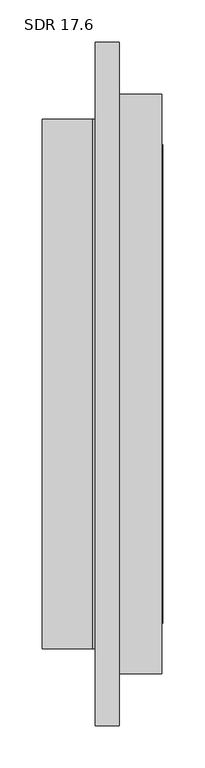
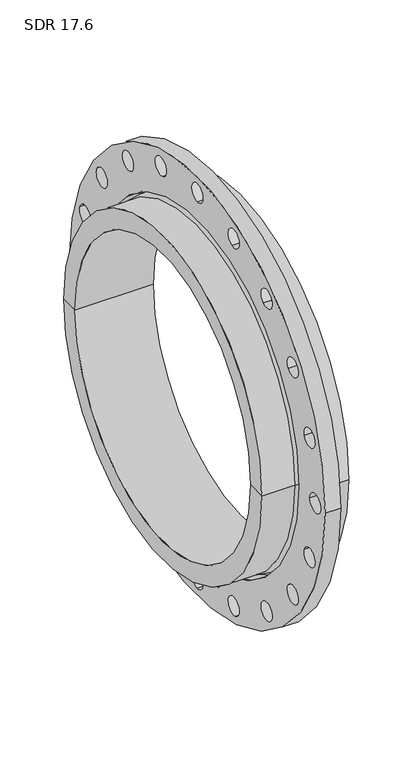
"""IFC4 building model written with IfcOpenShell, lengths in millimetres: valve geometry, Aquatherm - Flange Adapter Butt-Weld : SDR 17.6."""

from ifc_helpers import new_model, si_unit, point, frame, frame_2d, origin, origin_2d, place, context, project, spatial, polyline, circle_curve, trimmed, segment, composite_curve, outline, extrude, source, transform, mapped, element, save
from ifc_brep_helpers import plane_surface, cylinder_surface, revolved_surface, advanced_brep


def sdr_17_6_c38204c5(model_context):
    return source(origin(), model_context, "Body", "SolidModel", [
        extrude(outline(composite_curve([segment(trimmed(circle_curve(origin_2d(), 406.4), [point((-406.4, 0.0))], [point((406.4, 0.0))], False, "CARTESIAN"), True, "CONTINUOUS"), segment(trimmed(circle_curve(origin_2d(), 406.4), [point((406.4, 0.0))], [point((-406.4, 0.0))], False, "CARTESIAN"), True, "CONTINUOUS")], self_intersect=False), holes=[composite_curve([segment(trimmed(circle_curve(origin_2d(), 322.58), [point((-322.58, 0.0))], [point((322.58, 0.0))], True, "CARTESIAN"), True, "CONTINUOUS"), segment(trimmed(circle_curve(origin_2d(), 322.58), [point((322.58, 0.0))], [point((-322.58, 0.0))], True, "CARTESIAN"), True, "CONTINUOUS")], self_intersect=False), composite_curve([segment(trimmed(circle_curve(frame_2d((374.65, 0.0)), 17.526), [point((357.124, 0.0))], [point((392.176, 0.0))], True, "CARTESIAN"), True, "CONTINUOUS"), segment(trimmed(circle_curve(frame_2d((374.65, 0.0)), 17.526), [point((392.176, 0.0))], [point((357.124, 0.0))], True, "CARTESIAN"), True, "CONTINUOUS")], self_intersect=False), composite_curve([segment(trimmed(circle_curve(frame_2d((356.3133238, -115.7732169)), 17.526), [point((339.6451073, -110.3573851))], [point((372.9815403, -121.1890488))], True, "CARTESIAN"), True, "CONTINUOUS"), segment(trimmed(circle_curve(frame_2d((356.3133238, -115.7732169)), 17.526), [point((372.9815403, -121.1890488))], [point((339.6451073, -110.3573851))], True, "CARTESIAN"), True, "CONTINUOUS")], self_intersect=False), composite_curve([segment(trimmed(circle_curve(frame_2d((356.3133238, 115.7732169)), 17.526), [point((339.6451073, 110.3573851))], [point((372.9815403, 121.1890488))], True, "CARTESIAN"), True, "CONTINUOUS"), segment(trimmed(circle_curve(frame_2d((356.3133238, 115.7732169)), 17.526), [point((372.9815403, 121.1890488))], [point((339.6451073, 110.3573851))], True, "CARTESIAN"), True, "CONTINUOUS")], self_intersect=False), composite_curve([segment(trimmed(circle_curve(frame_2d((303.0982169, 220.2137448)), 17.526), [point((288.9193851, 209.9122204))], [point((317.2770488, 230.5152691))], True, "CARTESIAN"), True, "CONTINUOUS"), segment(trimmed(circle_curve(frame_2d((303.0982169, 220.2137448)), 17.526), [point((317.2770488, 230.5152691))], [point((288.9193851, 209.9122204))], True, "CARTESIAN"), True, "CONTINUOUS")], self_intersect=False), composite_curve([segment(trimmed(circle_curve(frame_2d((220.2137448, 303.0982169)), 17.526), [point((209.9122204, 288.9193851))], [point((230.5152691, 317.2770488))], True, "CARTESIAN"), True, "CONTINUOUS"), segment(trimmed(circle_curve(frame_2d((220.2137448, 303.0982169)), 17.526), [point((230.5152691, 317.2770488))], [point((209.9122204, 288.9193851))], True, "CARTESIAN"), True, "CONTINUOUS")], self_intersect=False), composite_curve([segment(trimmed(circle_curve(frame_2d((115.7732169, 356.3133238)), 17.526), [point((110.3573851, 339.6451073))], [point((121.1890488, 372.9815403))], True, "CARTESIAN"), True, "CONTINUOUS"), segment(trimmed(circle_curve(frame_2d((115.7732169, 356.3133238)), 17.526), [point((121.1890488, 372.9815403))], [point((110.3573851, 339.6451073))], True, "CARTESIAN"), True, "CONTINUOUS")], self_intersect=False), composite_curve([segment(trimmed(circle_curve(frame_2d((0.0, 374.65)), 17.526), [point((0.0, 357.124))], [point((0.0, 392.176))], True, "CARTESIAN"), True, "CONTINUOUS"), segment(trimmed(circle_curve(frame_2d((0.0, 374.65)), 17.526), [point((0.0, 392.176))], [point((0.0, 357.124))], True, "CARTESIAN"), True, "CONTINUOUS")], self_intersect=False), composite_curve([segment(trimmed(circle_curve(frame_2d((-115.7732169, 356.3133238)), 17.526), [point((-110.3573851, 339.6451073))], [point((-121.1890488, 372.9815403))], True, "CARTESIAN"), True, "CONTINUOUS"), segment(trimmed(circle_curve(frame_2d((-115.7732169, 356.3133238)), 17.526), [point((-121.1890488, 372.9815403))], [point((-110.3573851, 339.6451073))], True, "CARTESIAN"), True, "CONTINUOUS")], self_intersect=False), composite_curve([segment(trimmed(circle_curve(frame_2d((-220.2137448, 303.0982169)), 17.526), [point((-209.9122204, 288.9193851))], [point((-230.5152691, 317.2770488))], True, "CARTESIAN"), True, "CONTINUOUS"), segment(trimmed(circle_curve(frame_2d((-220.2137448, 303.0982169)), 17.526), [point((-230.5152691, 317.2770488))], [point((-209.9122204, 288.9193851))], True, "CARTESIAN"), True, "CONTINUOUS")], self_intersect=False), composite_curve([segment(trimmed(circle_curve(frame_2d((-303.0982169, 220.2137448)), 17.526), [point((-288.9193851, 209.9122204))], [point((-317.2770488, 230.5152691))], True, "CARTESIAN"), True, "CONTINUOUS"), segment(trimmed(circle_curve(frame_2d((-303.0982169, 220.2137448)), 17.526), [point((-317.2770488, 230.5152691))], [point((-288.9193851, 209.9122204))], True, "CARTESIAN"), True, "CONTINUOUS")], self_intersect=False), composite_curve([segment(trimmed(circle_curve(frame_2d((-356.3133238, 115.7732169)), 17.526), [point((-339.6451073, 110.3573851))], [point((-372.9815403, 121.1890488))], True, "CARTESIAN"), True, "CONTINUOUS"), segment(trimmed(circle_curve(frame_2d((-356.3133238, 115.7732169)), 17.526), [point((-372.9815403, 121.1890488))], [point((-339.6451073, 110.3573851))], True, "CARTESIAN"), True, "CONTINUOUS")], self_intersect=False), composite_curve([segment(trimmed(circle_curve(frame_2d((-374.65, 0.0)), 17.526), [point((-357.124, 0.0))], [point((-392.176, 0.0))], True, "CARTESIAN"), True, "CONTINUOUS"), segment(trimmed(circle_curve(frame_2d((-374.65, 0.0)), 17.526), [point((-392.176, 0.0))], [point((-357.124, 0.0))], True, "CARTESIAN"), True, "CONTINUOUS")], self_intersect=False), composite_curve([segment(trimmed(circle_curve(frame_2d((-356.3133238, -115.7732169)), 17.526), [point((-339.6451073, -110.3573851))], [point((-372.9815403, -121.1890488))], True, "CARTESIAN"), True, "CONTINUOUS"), segment(trimmed(circle_curve(frame_2d((-356.3133238, -115.7732169)), 17.526), [point((-372.9815403, -121.1890488))], [point((-339.6451073, -110.3573851))], True, "CARTESIAN"), True, "CONTINUOUS")], self_intersect=False), composite_curve([segment(trimmed(circle_curve(frame_2d((-303.0982169, -220.2137448)), 17.526), [point((-288.9193851, -209.9122204))], [point((-317.2770488, -230.5152691))], True, "CARTESIAN"), True, "CONTINUOUS"), segment(trimmed(circle_curve(frame_2d((-303.0982169, -220.2137448)), 17.526), [point((-317.2770488, -230.5152691))], [point((-288.9193851, -209.9122204))], True, "CARTESIAN"), True, "CONTINUOUS")], self_intersect=False), composite_curve([segment(trimmed(circle_curve(frame_2d((-220.2137448, -303.0982169)), 17.526), [point((-209.9122204, -288.9193851))], [point((-230.5152691, -317.2770488))], True, "CARTESIAN"), True, "CONTINUOUS"), segment(trimmed(circle_curve(frame_2d((-220.2137448, -303.0982169)), 17.526), [point((-230.5152691, -317.2770488))], [point((-209.9122204, -288.9193851))], True, "CARTESIAN"), True, "CONTINUOUS")], self_intersect=False), composite_curve([segment(trimmed(circle_curve(frame_2d((-115.7732169, -356.3133238)), 17.526), [point((-110.3573851, -339.6451073))], [point((-121.1890488, -372.9815403))], True, "CARTESIAN"), True, "CONTINUOUS"), segment(trimmed(circle_curve(frame_2d((-115.7732169, -356.3133238)), 17.526), [point((-121.1890488, -372.9815403))], [point((-110.3573851, -339.6451073))], True, "CARTESIAN"), True, "CONTINUOUS")], self_intersect=False), composite_curve([segment(trimmed(circle_curve(frame_2d((0.0, -374.65)), 17.526), [point((0.0, -357.124))], [point((0.0, -392.176))], True, "CARTESIAN"), True, "CONTINUOUS"), segment(trimmed(circle_curve(frame_2d((0.0, -374.65)), 17.526), [point((0.0, -392.176))], [point((0.0, -357.124))], True, "CARTESIAN"), True, "CONTINUOUS")], self_intersect=False), composite_curve([segment(trimmed(circle_curve(frame_2d((115.7732169, -356.3133238)), 17.526), [point((110.3573851, -339.6451073))], [point((121.1890488, -372.9815403))], True, "CARTESIAN"), True, "CONTINUOUS"), segment(trimmed(circle_curve(frame_2d((115.7732169, -356.3133238)), 17.526), [point((121.1890488, -372.9815403))], [point((110.3573851, -339.6451073))], True, "CARTESIAN"), True, "CONTINUOUS")], self_intersect=False), composite_curve([segment(trimmed(circle_curve(frame_2d((220.2137448, -303.0982169)), 17.526), [point((209.9122204, -288.9193851))], [point((230.5152691, -317.2770488))], True, "CARTESIAN"), True, "CONTINUOUS"), segment(trimmed(circle_curve(frame_2d((220.2137448, -303.0982169)), 17.526), [point((230.5152691, -317.2770488))], [point((209.9122204, -288.9193851))], True, "CARTESIAN"), True, "CONTINUOUS")], self_intersect=False), composite_curve([segment(trimmed(circle_curve(frame_2d((303.0982169, -220.2137448)), 17.526), [point((288.9193851, -209.9122204))], [point((317.2770488, -230.5152691))], True, "CARTESIAN"), True, "CONTINUOUS"), segment(trimmed(circle_curve(frame_2d((303.0982169, -220.2137448)), 17.526), [point((317.2770488, -230.5152691))], [point((288.9193851, -209.9122204))], True, "CARTESIAN"), True, "CONTINUOUS")], self_intersect=False)]), frame((-28.702, 0.0, 0.0), z_axis=(1.0, 0.0, 0.0), x_axis=(0.0, 1.0, 0.0)), (0.0, 0.0, 1.0), 28.702),
        advanced_brep(
        [(50.038, 344.17, 0.0), (50.038, -344.17, 0.0), (0.0, -344.17, 0.0), (0.0, 344.17, 0.0), (51.6255, 279.146, 0.0), (51.6255, -279.146, 0.0), (51.6255, -284.226, 0.0), (51.6255, 284.226, 0.0), (-91.948, 279.146, 0.0), (-91.948, -279.146, 0.0), (-91.948, 314.96, 0.0), (-91.948, -314.96, 0.0), (-32.004, 314.96, 0.0), (-32.004, -314.96, 0.0), (0.0, -320.04, 0.0), (0.0, 320.04, 0.0), (50.038, 284.226, 0.0), (50.038, -284.226, 0.0)],
        [
            (0, 1, circle_curve(frame((50.038, 0.0, 0.0), z_axis=(-1.0, 0.0, 0.0), x_axis=(0.0, -1.0, 0.0)), 344.17)),
            (1, 2),
            (2, 3, circle_curve(frame((0.0, 0.0, 0.0), z_axis=(1.0, 0.0, 0.0), x_axis=(0.0, -1.0, 0.0)), 344.17)),
            (3, 0),
            (1, 0, circle_curve(frame((50.038, 0.0, 0.0), z_axis=(-1.0, 0.0, 0.0), x_axis=(0.0, -1.0, 0.0)), 344.17)),
            (3, 2, circle_curve(frame((0.0, 0.0, 0.0), z_axis=(1.0, 0.0, 0.0), x_axis=(0.0, -1.0, 0.0)), 344.17)),
            (4, 5, circle_curve(frame((51.6255, 0.0, 0.0), z_axis=(-1.0, 0.0, 0.0), x_axis=(0.0, -1.0, 0.0)), 279.146)),
            (5, 6),
            (6, 7, circle_curve(frame((51.6255, 0.0, 0.0), z_axis=(1.0, 0.0, 0.0), x_axis=(0.0, -1.0, 0.0)), 284.226)),
            (7, 4),
            (5, 4, circle_curve(frame((51.6255, 0.0, 0.0), z_axis=(-1.0, 0.0, 0.0), x_axis=(0.0, -1.0, 0.0)), 279.146)),
            (7, 6, circle_curve(frame((51.6255, 0.0, 0.0), z_axis=(1.0, 0.0, 0.0), x_axis=(0.0, -1.0, 0.0)), 284.226)),
            (8, 9, circle_curve(frame((-91.948, 0.0, 0.0), z_axis=(-1.0, 0.0, 0.0), x_axis=(0.0, -1.0, 0.0)), 279.146)),
            (9, 5),
            (4, 8),
            (9, 8, circle_curve(frame((-91.948, 0.0, 0.0), z_axis=(-1.0, 0.0, 0.0), x_axis=(0.0, -1.0, 0.0)), 279.146)),
            (10, 11, circle_curve(frame((-91.948, 0.0, 0.0), z_axis=(-1.0, 0.0, 0.0), x_axis=(0.0, -1.0, 0.0)), 314.96)),
            (11, 9),
            (8, 10),
            (11, 10, circle_curve(frame((-91.948, 0.0, 0.0), z_axis=(-1.0, 0.0, 0.0), x_axis=(0.0, -1.0, 0.0)), 314.96)),
            (12, 13, circle_curve(frame((-32.004, 0.0, 0.0), z_axis=(-1.0, 0.0, 0.0), x_axis=(0.0, -1.0, 0.0)), 314.96)),
            (13, 11),
            (10, 12),
            (13, 12, circle_curve(frame((-32.004, 0.0, 0.0), z_axis=(-1.0, 0.0, 0.0), x_axis=(0.0, -1.0, 0.0)), 314.96)),
            (2, 14),
            (14, 15, circle_curve(frame((0.0, 0.0, 0.0), z_axis=(1.0, 0.0, 0.0), x_axis=(0.0, -1.0, 0.0)), 320.04)),
            (15, 3),
            (15, 14, circle_curve(frame((0.0, 0.0, 0.0), z_axis=(1.0, 0.0, 0.0), x_axis=(0.0, -1.0, 0.0)), 320.04)),
            (16, 17, circle_curve(frame((50.038, 0.0, 0.0), z_axis=(-1.0, 0.0, 0.0), x_axis=(0.0, -1.0, 0.0)), 284.226)),
            (17, 1),
            (0, 16),
            (17, 16, circle_curve(frame((50.038, 0.0, 0.0), z_axis=(-1.0, 0.0, 0.0), x_axis=(0.0, -1.0, 0.0)), 284.226)),
            (6, 17),
            (16, 7),
            (14, 13),
            (12, 15),
        ],
        [
            cylinder_surface(frame((1490.6769321, 0.0, 0.0), z_axis=(1.0, 0.0, 0.0), x_axis=(0.0, -1.0, 0.0)), 344.17),
            plane_surface(frame((51.6255, 0.0, 0.0), z_axis=(1.0, 0.0, 0.0), x_axis=(0.0, -1.0, 0.0))),
            revolved_surface(polyline([(51.6255000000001, -279.146, 0.0), (-91.94800000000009, -279.146, 0.0)]), (1490.6769321, 0.0, 0.0), (1.0, 0.0, 0.0)),
            plane_surface(frame((-91.948, 0.0, 0.0), z_axis=(-1.0, 0.0, 0.0), x_axis=(0.0, -1.0, 0.0))),
            cylinder_surface(frame((1490.6769321, 0.0, 0.0), z_axis=(1.0, 0.0, 0.0), x_axis=(0.0, -1.0, 0.0)), 314.96),
            plane_surface(frame((0.0, 0.0, 0.0), z_axis=(-1.0, 0.0, 0.0), x_axis=(0.0, -1.0, 0.0))),
            plane_surface(frame((50.038, 0.0, 0.0), z_axis=(1.0, 0.0, 0.0), x_axis=(0.0, -1.0, 0.0))),
            cylinder_surface(frame((1490.6769321, 0.0, 0.0), z_axis=(1.0, 0.0, 0.0), x_axis=(0.0, -1.0, 0.0)), 284.226),
            revolved_surface(polyline([(-32.004, -314.96, 0.0), (0.0, -320.04, 0.0)]), (1490.6769321, 0.0, 0.0), (1.0, 0.0, 0.0)),
        ],
        [
            (0, [[1, 2, 3, 4]]),
            (0, [[5, -4, 6, -2]]),
            (1, [[7, 8, 9, 10]]),
            (1, [[11, -10, 12, -8]]),
            (2, [[13, 14, -7, 15]]),
            (2, [[16, -15, -11, -14]]),
            (3, [[17, 18, -13, 19]]),
            (3, [[20, -19, -16, -18]]),
            (4, [[21, 22, -17, 23]]),
            (4, [[24, -23, -20, -22]]),
            (5, [[-3, 25, 26, 27]]),
            (5, [[-6, -27, 28, -25]]),
            (6, [[29, 30, -1, 31]]),
            (6, [[32, -31, -5, -30]]),
            (7, [[-9, 33, -29, 34]]),
            (7, [[-12, -34, -32, -33]]),
            (8, [[-26, 35, -21, 36]]),
            (8, [[-28, -36, -24, -35]]),
        ],
    ),
    ])


if __name__ == "__main__":
    model = new_model("IFC4")
    model_context = context("Model", 3, world=origin())
    ifc_project = project(units=[si_unit("LENGTHUNIT", "METRE", prefix="MILLI")], contexts=[model_context])
    site = spatial("IfcSite", under=ifc_project)
    building = spatial("IfcBuilding", under=site)
    placement = place(None, origin())
    sdr_17_6_shape = sdr_17_6_c38204c5(model_context)
    element("IfcValve", 1, ObjectType="Aquatherm - Flange Adapter Butt-Weld : SDR 17.6", at=placement, inside=building, context=model_context, shape_type="MappedRepresentation", body=[
        mapped(sdr_17_6_shape, transform((0.0, 0.0, 0.0), x_axis=(1.0, 0.0, 0.0), y_axis=(0.0, 1.0, 0.0), z_axis=(0.0, 0.0, 1.0))),
    ])
    save(model, "model.ifc")
